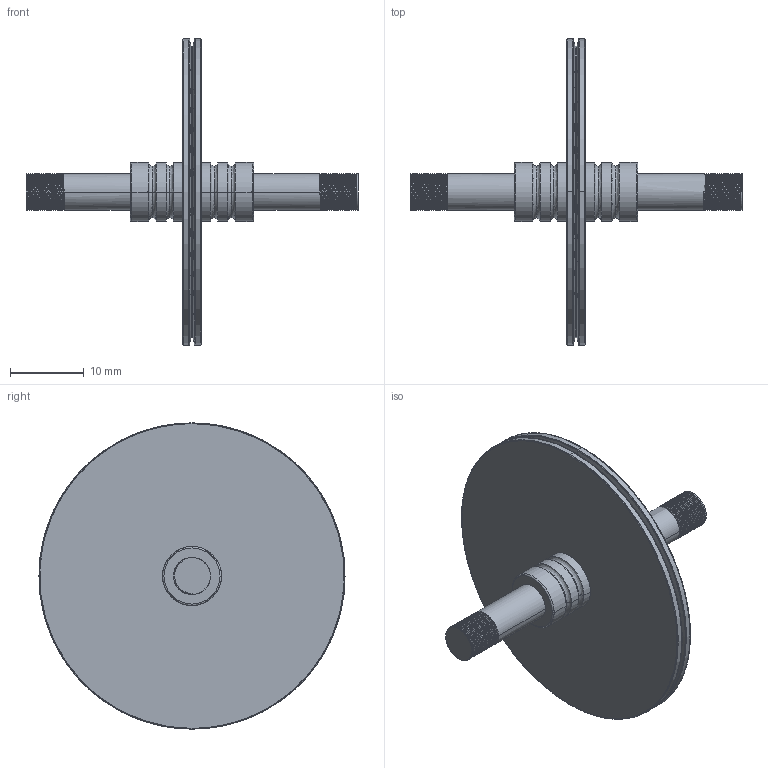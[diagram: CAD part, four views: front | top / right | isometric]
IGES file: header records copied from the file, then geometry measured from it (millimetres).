
Start section: SolidWorks IGES file using analytic representation for surfaces
Global section: file name: C:\Users\Kamkarian\Desktop\529Pulley.IGS; native system: SolidWorks 2016; preprocessor: SolidWorks 2016; author: Kamkarian; date: 180616.231846; units: millimetre
Bounding box: 45 x 41.5 x 41.5 mm (x, y, z)
Surface area: 4144.4 mm2 (no closed solid volume)
Topology: 0 solids, 0 shells, 154 faces, 2582 edges, 2582 vertices
Faces by surface type: revolution 106, bspline 48
